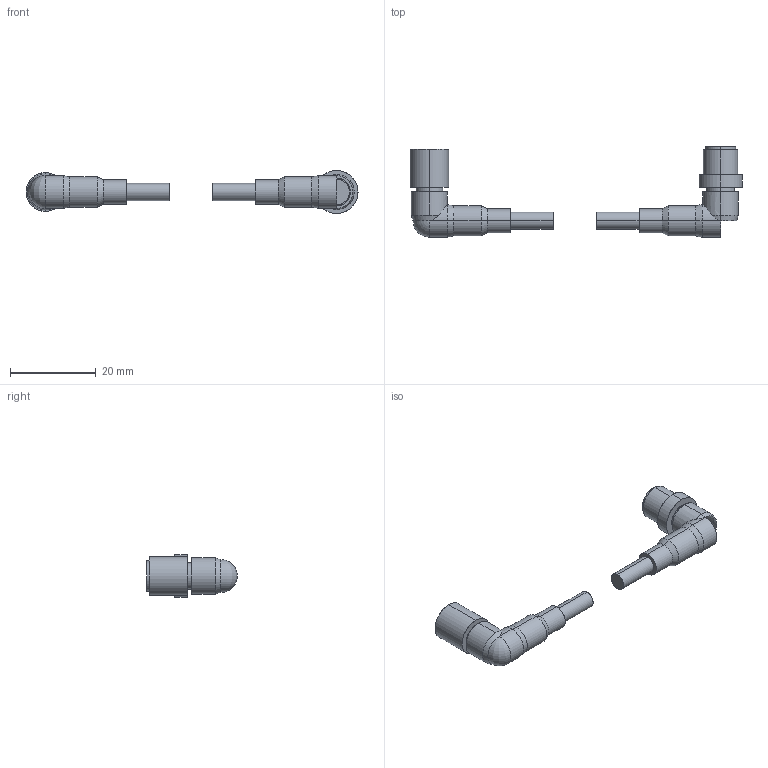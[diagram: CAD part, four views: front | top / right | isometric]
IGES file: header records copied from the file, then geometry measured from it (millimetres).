
Start section: OSMC1.0    IGES FILE using analytic representation for surfaces
Global section: file name: C:\omron\IGES\XS3W_M422_402_R.igs; native system: SolidWorks 2001Plus by SolidWorks Corporation; preprocessor: Version 5.3; author: mikai; date: 060914.231725; units: millimetre
Bounding box: 77.4 x 21.12 x 10 mm (x, y, z)
Surface area: 2752.9 mm2 (no closed solid volume)
Topology: 0 solids, 0 shells, 108 faces, 1331 edges, 1298 vertices
Faces by surface type: revolution 83, bspline 25
